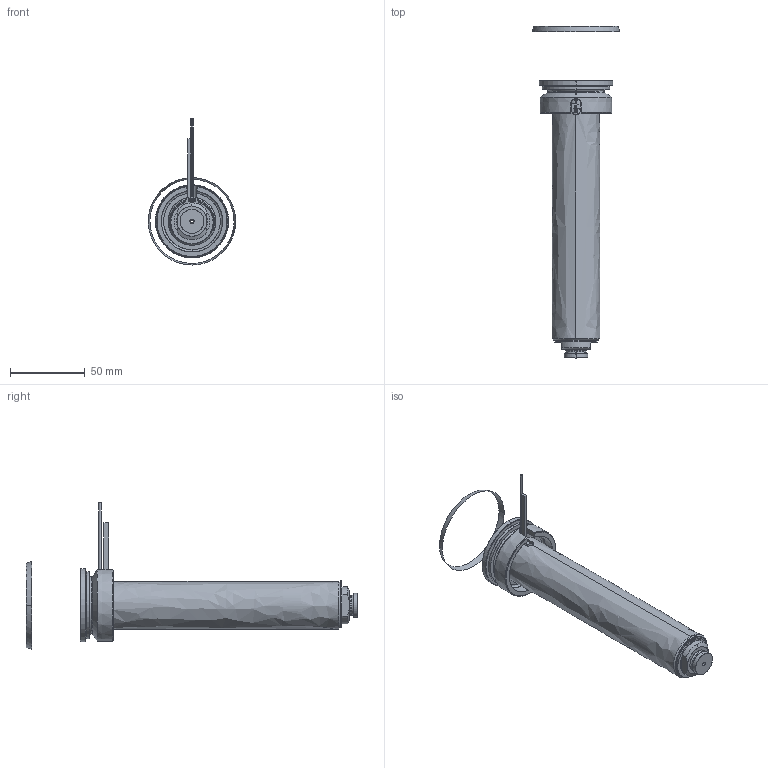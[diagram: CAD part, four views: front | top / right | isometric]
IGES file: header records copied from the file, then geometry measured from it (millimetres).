
Start section: SolidWorks IGES file using analytic representation for surfaces
Global section: file name: C:\Documents and Settings\ws-20\Desktop\TEMPORANEA\UGBE5004-S-A-3 [Ød-2.0 P-0 ØC-13].IGS; native system: SolidWorks 2012; preprocessor: SolidWorks 2012; author: ws-20; date: 120306.162541; units: millimetre
Bounding box: 58.57 x 222.44 x 97.91 mm (x, y, z)
Surface area: 67362.5 mm2 (no closed solid volume)
Topology: 0 solids, 0 shells, 108 faces, 2094 edges, 2094 vertices
Faces by surface type: revolution 67, bspline 41
